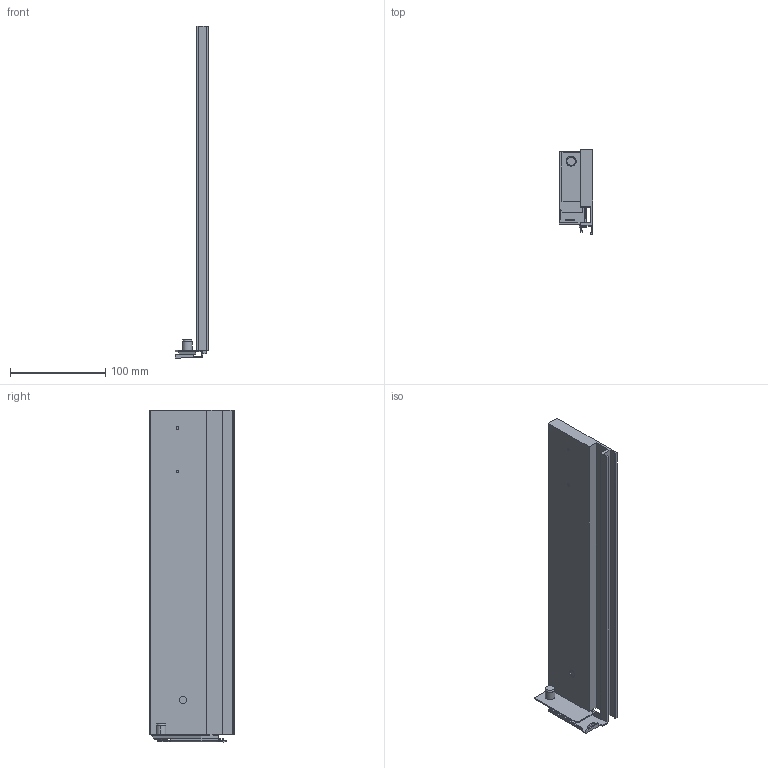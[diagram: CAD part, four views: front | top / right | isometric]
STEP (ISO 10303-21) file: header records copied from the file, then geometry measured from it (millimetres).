
FILE_DESCRIPTION (( 'STEP AP214' ), '1' );
FILE_NAME ('Vionaro_Alu-Zarge_H89_NL350_RE.STEP', '2014-08-14T10:16:47', ( '' ), ( '' ), 'SwSTEP 2.0', 'SolidWorks 2013', '' );
FILE_SCHEMA (( 'AUTOMOTIVE_DESIGN' ));
Length unit declared in the file: millimetre
Products named in the file (1): Vionaro_Alu-Zarge_H89_NL350_RE
Bounding box: 35.6 x 89 x 347.9 mm (x, y, z)
Volume: 311472.7 mm3; surface area: 91771 mm2
Topology: 1 solids, 1 shells, 101 faces, 272 edges, 178 vertices
Faces by surface type: plane 81, cylinder 16, cone 4
Entity records: 3162 total; most frequent: CARTESIAN_POINT 558, ORIENTED_EDGE 544, DIRECTION 512, EDGE_CURVE 272, VECTOR 232, LINE 232, VERTEX_POINT 178, AXIS2_PLACEMENT_3D 140
